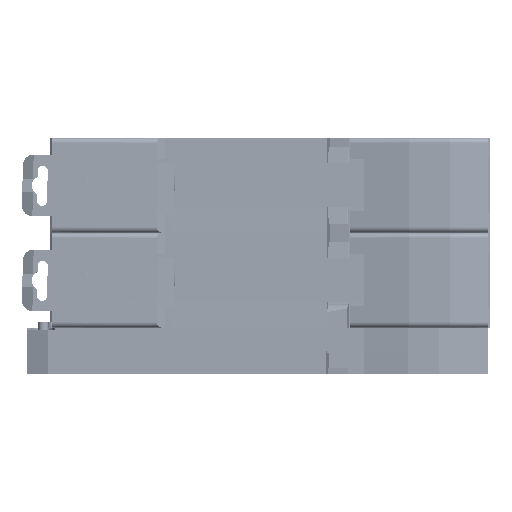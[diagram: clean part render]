
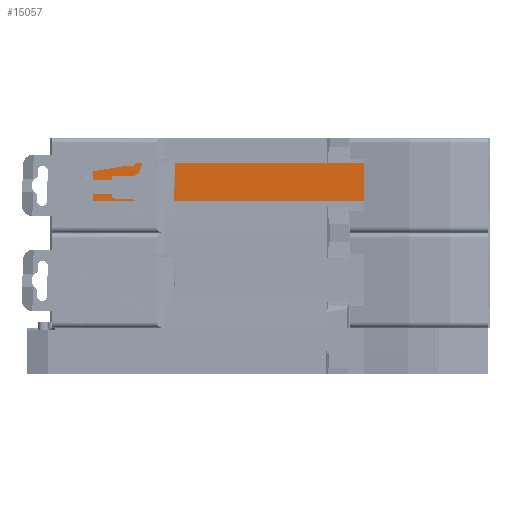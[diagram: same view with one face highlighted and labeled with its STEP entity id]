
A CAD part, front view. The second image highlights one B-rep face of the part: STEP entity #15057.
In plain terms, the highlighted planar face has unit normal (0, -1, 0).
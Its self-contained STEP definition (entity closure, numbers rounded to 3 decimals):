
#2593 = CARTESIAN_POINT ( 'NONE',  ( -135.966, 3.207, -20.282 ) ) ;
#3982 = DIRECTION ( 'NONE',  ( 1., 0., 0. ) ) ;
#15057 = ADVANCED_FACE ( 'NONE', ( #94063 ), #90513, .F. ) ;
#30031 = EDGE_LOOP ( 'NONE', ( #61702, #51131, #117701, #60923, #155718, #66158 ) ) ;
#37721 = CARTESIAN_POINT ( 'NONE',  ( -3.938, 3.207, 8.4 ) ) ;
#48124 = LINE ( 'NONE', #271401, #264585 ) ;
#50943 = VERTEX_POINT ( 'NONE', #196251 ) ;
#51131 = ORIENTED_EDGE ( 'NONE', *, *, #227579, .F. ) ;
#60923 = ORIENTED_EDGE ( 'NONE', *, *, #148604, .T. ) ;
#61702 = ORIENTED_EDGE ( 'NONE', *, *, #72560, .F. ) ;
#66158 = ORIENTED_EDGE ( 'NONE', *, *, #237749, .T. ) ;
#66788 = LINE ( 'NONE', #180758, #262260 ) ;
#69338 = LINE ( 'NONE', #144084, #184717 ) ;
#72560 = EDGE_CURVE ( 'NONE', #251632, #265392, #230098, .T. ) ;
#90513 = PLANE ( 'NONE',  #196686 ) ;
#94063 = FACE_OUTER_BOUND ( 'NONE', #30031, .T. ) ;
#110015 = EDGE_CURVE ( 'NONE', #165014, #215087, #69338, .T. ) ;
#114024 = DIRECTION ( 'NONE',  ( 0.009, 0., -1. ) ) ;
#117701 = ORIENTED_EDGE ( 'NONE', *, *, #154767, .F. ) ;
#127409 = CARTESIAN_POINT ( 'NONE',  ( -54.111, 3.207, -20.282 ) ) ;
#135739 = CARTESIAN_POINT ( 'NONE',  ( -3.876, 3.207, 1.315 ) ) ;
#144046 = CARTESIAN_POINT ( 'NONE',  ( -54.111, 3.207, 8.4 ) ) ;
#144084 = CARTESIAN_POINT ( 'NONE',  ( -135.966, 3.207, 1.315 ) ) ;
#148604 = EDGE_CURVE ( 'NONE', #50943, #215087, #219598, .T. ) ;
#150464 = VECTOR ( 'NONE', #195705, 1000. ) ;
#151717 = CARTESIAN_POINT ( 'NONE',  ( -47.196, 3.207, 1.315 ) ) ;
#154767 = EDGE_CURVE ( 'NONE', #50943, #219175, #276182, .T. ) ;
#155718 = ORIENTED_EDGE ( 'NONE', *, *, #110015, .F. ) ;
#165014 = VERTEX_POINT ( 'NONE', #151717 ) ;
#173709 = CARTESIAN_POINT ( 'NONE',  ( -51.258, 3.207, 1.315 ) ) ;
#180758 = CARTESIAN_POINT ( 'NONE',  ( -36.661, 3.207, 1.315 ) ) ;
#182279 = DIRECTION ( 'NONE',  ( 1., 0., 0. ) ) ;
#184717 = VECTOR ( 'NONE', #230998, 1000. ) ;
#195705 = DIRECTION ( 'NONE',  ( 0., 0., 1. ) ) ;
#196251 = CARTESIAN_POINT ( 'NONE',  ( -54.111, 3.207, 1.315 ) ) ;
#196686 = AXIS2_PLACEMENT_3D ( 'NONE', #2593, #228051, #206543 ) ;
#199947 = CARTESIAN_POINT ( 'NONE',  ( -3.938, 3.207, 8.4 ) ) ;
#206543 = DIRECTION ( 'NONE',  ( 1., 0., 0. ) ) ;
#215087 = VERTEX_POINT ( 'NONE', #173709 ) ;
#219175 = VERTEX_POINT ( 'NONE', #144046 ) ;
#219598 = LINE ( 'NONE', #270104, #226611 ) ;
#226611 = VECTOR ( 'NONE', #182279, 1000. ) ;
#227579 = EDGE_CURVE ( 'NONE', #219175, #251632, #48124, .T. ) ;
#228051 = DIRECTION ( 'NONE',  ( 0., 1., 0. ) ) ;
#230098 = LINE ( 'NONE', #199947, #282428 ) ;
#230998 = DIRECTION ( 'NONE',  ( -1., 0., 0. ) ) ;
#237749 = EDGE_CURVE ( 'NONE', #165014, #265392, #66788, .T. ) ;
#251632 = VERTEX_POINT ( 'NONE', #37721 ) ;
#262260 = VECTOR ( 'NONE', #273397, 1000. ) ;
#264585 = VECTOR ( 'NONE', #3982, 1000. ) ;
#265392 = VERTEX_POINT ( 'NONE', #135739 ) ;
#270104 = CARTESIAN_POINT ( 'NONE',  ( -36.661, 3.207, 1.315 ) ) ;
#271401 = CARTESIAN_POINT ( 'NONE',  ( -135.966, 3.207, 8.4 ) ) ;
#273397 = DIRECTION ( 'NONE',  ( 1., 0., 0. ) ) ;
#276182 = LINE ( 'NONE', #127409, #150464 ) ;
#282428 = VECTOR ( 'NONE', #114024, 1000. ) ;
